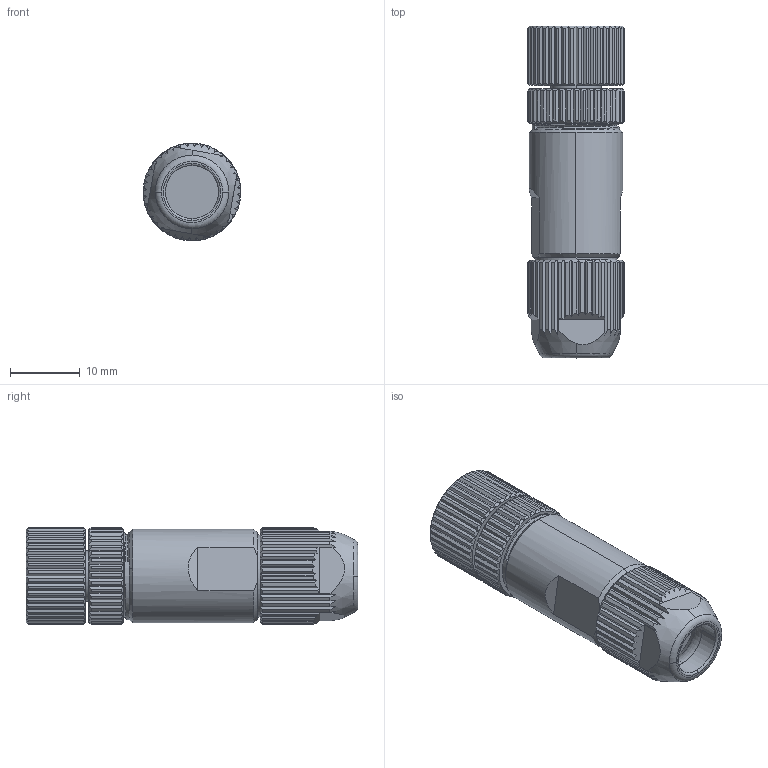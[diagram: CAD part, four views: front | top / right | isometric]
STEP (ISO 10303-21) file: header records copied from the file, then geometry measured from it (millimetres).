
FILE_DESCRIPTION (( 'STEP AP203' ), '1' );
FILE_NAME ('63F281.STEP', '2023-06-24T02:50:57', ( '' ), ( '' ), 'SwSTEP 2.0', 'SolidWorks 2016', '' );
FILE_SCHEMA (( 'CONFIG_CONTROL_DESIGN' ));
Length unit declared in the file: millimetre
Products named in the file (1): 63F281
Bounding box: 14 x 47.51 x 14 mm (x, y, z)
Volume: 5962.1 mm3; surface area: 4015.3 mm2
Topology: 1 solids, 7 shells, 704 faces, 1778 edges, 1102 vertices
Faces by surface type: plane 284, cone 225, cylinder 179, torus 8, bspline 8
Entity records: 26080 total; most frequent: CARTESIAN_POINT 10956, ORIENTED_EDGE 3556, DIRECTION 2481, EDGE_CURVE 1778, VERTEX_POINT 1102, AXIS2_PLACEMENT_3D 982, B_SPLINE_CURVE_WITH_KNOTS 968, EDGE_LOOP 720
